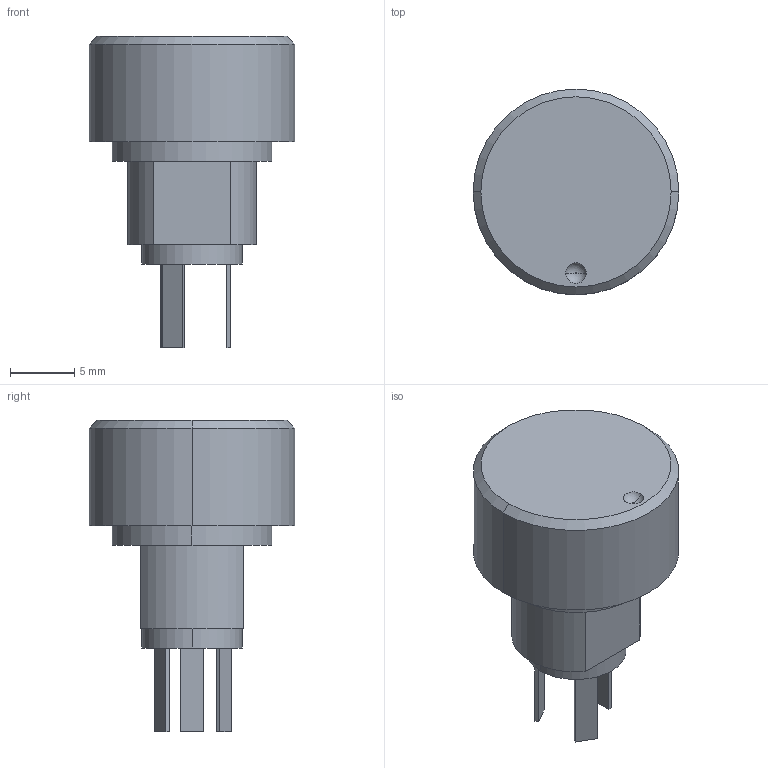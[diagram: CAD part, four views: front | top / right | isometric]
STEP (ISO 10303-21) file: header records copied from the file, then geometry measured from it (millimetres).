
FILE_DESCRIPTION (( 'STEP AP214' ), '1' );
FILE_NAME ('User Library-Potentiometer-1.STEP', '2013-09-30T22:47:34', ( 'Windows User' ), ( '' ), 'SwSTEP 2.0', 'SolidWorks 2013', '' );
FILE_SCHEMA (( 'AUTOMOTIVE_DESIGN' ));
Length unit declared in the file: millimetre
Products named in the file (1): User Library-Potentiometer-1
Bounding box: 16 x 16 x 24.2 mm (x, y, z)
Volume: 2360 mm3; surface area: 1172.7 mm2
Topology: 1 solids, 1 shells, 36 faces, 79 edges, 52 vertices
Faces by surface type: plane 23, cylinder 9, torus 2, cone 2
Entity records: 1368 total; most frequent: DIRECTION 179, CARTESIAN_POINT 168, ORIENTED_EDGE 158, EDGE_CURVE 79, AXIS2_PLACEMENT_3D 63, LINE 53, VECTOR 53, VERTEX_POINT 52
